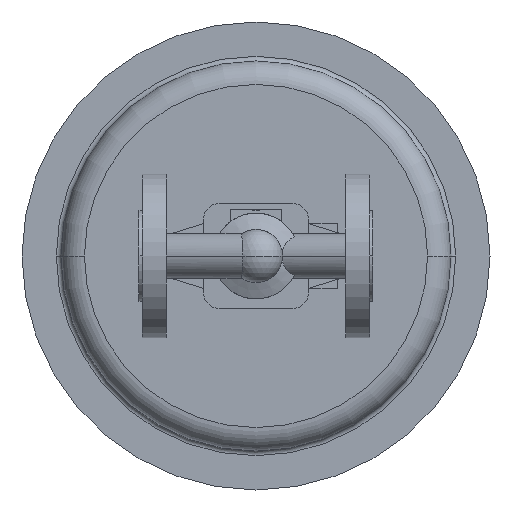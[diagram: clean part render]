
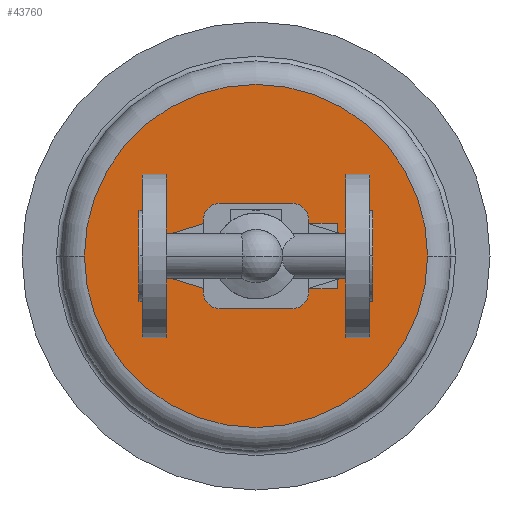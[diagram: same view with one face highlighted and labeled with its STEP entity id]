
A CAD part, front view. The second image highlights one B-rep face of the part: STEP entity #43760.
In plain terms, the highlighted planar face has unit normal (0, -1, 0).
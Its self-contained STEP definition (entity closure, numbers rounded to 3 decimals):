
#33670=CARTESIAN_POINT('',(185.,348.,0.));
#33680=VERTEX_POINT('',#33670);
#33710=CARTESIAN_POINT('',(75.,348.,0.));
#33720=DIRECTION('',(0.,1.,0.));
#33730=DIRECTION('',(1.,0.,0.));
#33740=AXIS2_PLACEMENT_3D('',#33710,#33720,#33730);
#33750=CIRCLE('',#33740,110.);
#33760=CARTESIAN_POINT('',(75.,348.,110.));
#33770=VERTEX_POINT('',#33760);
#33780=EDGE_CURVE('',#33770,#33680,#33750,.T.);
#33800=CARTESIAN_POINT('',(-35.,348.,0.));
#33810=VERTEX_POINT('',#33800);
#33820=EDGE_CURVE('',#33810,#33770,#33750,.T.);
#34480=CARTESIAN_POINT('',(110.,348.,0.));
#34490=VERTEX_POINT('',#34480);
#34650=CARTESIAN_POINT('',(140.,348.,0.));
#34660=VERTEX_POINT('',#34650);
#34690=CARTESIAN_POINT('',(125.,348.,0.));
#34700=DIRECTION('',(0.,1.,0.));
#34710=DIRECTION('',(1.,0.,0.));
#34720=AXIS2_PLACEMENT_3D('',#34690,#34700,#34710);
#34730=CIRCLE('',#34720,15.);
#34740=EDGE_CURVE('',#34660,#34490,#34730,.T.);
#34900=CARTESIAN_POINT('',(40.,348.,0.));
#34910=VERTEX_POINT('',#34900);
#35070=CARTESIAN_POINT('',(10.,348.,0.));
#35080=VERTEX_POINT('',#35070);
#35110=CARTESIAN_POINT('',(25.,348.,0.));
#35120=DIRECTION('',(0.,1.,0.));
#35130=DIRECTION('',(1.,0.,0.));
#35140=AXIS2_PLACEMENT_3D('',#35110,#35120,#35130);
#35150=CIRCLE('',#35140,15.);
#35160=EDGE_CURVE('',#35080,#34910,#35150,.T.);
#35300=CARTESIAN_POINT('',(56.55,348.,0.));
#35310=VERTEX_POINT('',#35300);
#35360=CARTESIAN_POINT('',(75.,348.,0.));
#35370=DIRECTION('',(0.,1.,0.));
#35380=DIRECTION('',(1.,0.,0.));
#35390=AXIS2_PLACEMENT_3D('',#35360,#35370,#35380);
#35400=CIRCLE('',#35390,18.45);
#35410=CARTESIAN_POINT('',(93.45,348.,0.));
#35420=VERTEX_POINT('',#35410);
#35430=EDGE_CURVE('',#35310,#35420,#35400,.T.);
#43500=CARTESIAN_POINT('',(130.,348.,0.));
#43510=DIRECTION('',(0.,-1.,0.));
#43520=DIRECTION('',(-1.,0.,0.));
#43530=AXIS2_PLACEMENT_3D('',#43500,#43510,#43520);
#43540=PLANE('',#43530);
#43550=EDGE_CURVE('',#35420,#35310,#35400,.T.);
#43560=ORIENTED_EDGE('',*,*,#43550,.T.);
#43570=ORIENTED_EDGE('',*,*,#35430,.T.);
#43580=EDGE_LOOP('',(#43570,#43560));
#43590=FACE_BOUND('',#43580,.T.);
#43600=EDGE_CURVE('',#34910,#35080,#35150,.T.);
#43610=ORIENTED_EDGE('',*,*,#43600,.T.);
#43620=ORIENTED_EDGE('',*,*,#35160,.T.);
#43630=EDGE_LOOP('',(#43620,#43610));
#43640=FACE_BOUND('',#43630,.T.);
#43650=EDGE_CURVE('',#34490,#34660,#34730,.T.);
#43660=ORIENTED_EDGE('',*,*,#43650,.T.);
#43670=ORIENTED_EDGE('',*,*,#34740,.T.);
#43680=EDGE_LOOP('',(#43670,#43660));
#43690=FACE_BOUND('',#43680,.T.);
#43700=ORIENTED_EDGE('',*,*,#33780,.F.);
#43710=EDGE_CURVE('',#33680,#33810,#33750,.T.);
#43720=ORIENTED_EDGE('',*,*,#43710,.F.);
#43730=ORIENTED_EDGE('',*,*,#33820,.F.);
#43740=EDGE_LOOP('',(#43730,#43720,#43700));
#43750=FACE_OUTER_BOUND('',#43740,.T.);
#43760=ADVANCED_FACE('',(#43590,#43640,#43690,#43750),#43540,.T.);
